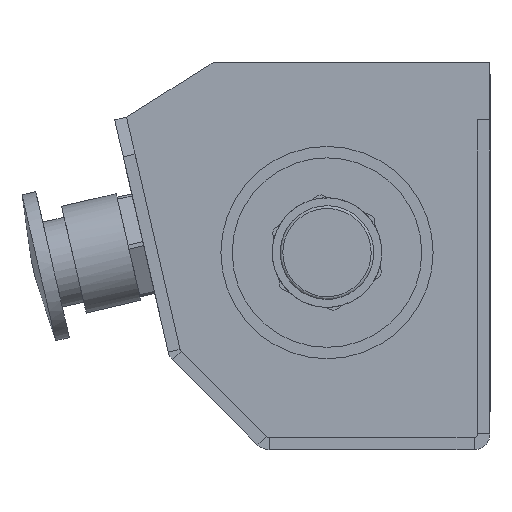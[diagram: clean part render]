
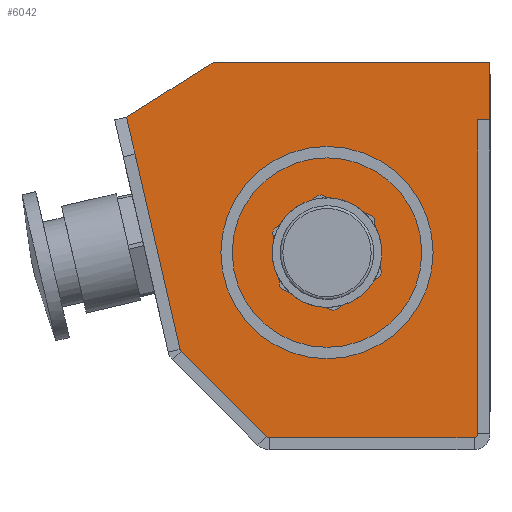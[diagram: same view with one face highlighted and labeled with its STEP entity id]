
A CAD part, left-side view. The second image highlights one B-rep face of the part: STEP entity #6042.
In plain terms, the highlighted planar face has unit normal (-1, 0, 0).
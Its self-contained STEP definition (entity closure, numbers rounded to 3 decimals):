
#22 = DIRECTION ( 'NONE',  ( 1., 0., 0. ) ) ;
#61 = DIRECTION ( 'NONE',  ( 0., 0., -1. ) ) ;
#158 = ORIENTED_EDGE ( 'NONE', *, *, #6128, .F. ) ;
#233 = CIRCLE ( 'NONE', #3430, 1. ) ;
#339 = EDGE_CURVE ( 'NONE', #468, #3167, #1136, .T. ) ;
#350 = VECTOR ( 'NONE', #1342, 1000. ) ;
#357 = CIRCLE ( 'NONE', #4742, 1. ) ;
#435 = EDGE_CURVE ( 'NONE', #4074, #4666, #5207, .T. ) ;
#468 = VERTEX_POINT ( 'NONE', #4599 ) ;
#524 = CARTESIAN_POINT ( 'NONE',  ( -166.2, 80.771, 26.71 ) ) ;
#561 = FACE_OUTER_BOUND ( 'NONE', #5033, .T. ) ;
#688 = ORIENTED_EDGE ( 'NONE', *, *, #3296, .F. ) ;
#892 = EDGE_CURVE ( 'NONE', #1795, #468, #3384, .T. ) ;
#931 = DIRECTION ( 'NONE',  ( 0., 1., 0. ) ) ;
#962 = CARTESIAN_POINT ( 'NONE',  ( -166.2, 3.2, 87. ) ) ;
#979 = CARTESIAN_POINT ( 'NONE',  ( -166.2, 58.26, 3.2 ) ) ;
#1011 = VECTOR ( 'NONE', #2979, 1000. ) ;
#1136 = CIRCLE ( 'NONE', #5942, 1. ) ;
#1150 = VERTEX_POINT ( 'NONE', #2530 ) ;
#1291 = EDGE_CURVE ( 'NONE', #3057, #4074, #5597, .T. ) ;
#1336 = CARTESIAN_POINT ( 'NONE',  ( -166.2, 81.745, 26.485 ) ) ;
#1342 = DIRECTION ( 'NONE',  ( 0., 0.225, 0.974 ) ) ;
#1544 = CARTESIAN_POINT ( 'NONE',  ( -166.2, 0., 102.2 ) ) ;
#1595 = ORIENTED_EDGE ( 'NONE', *, *, #435, .F. ) ;
#1615 = LINE ( 'NONE', #3967, #1011 ) ;
#1721 = ORIENTED_EDGE ( 'NONE', *, *, #1955, .F. ) ;
#1765 = EDGE_CURVE ( 'NONE', #6073, #5377, #3642, .T. ) ;
#1795 = VERTEX_POINT ( 'NONE', #4221 ) ;
#1840 = VECTOR ( 'NONE', #2711, 1000. ) ;
#1857 = VECTOR ( 'NONE', #5818, 1000. ) ;
#1897 = DIRECTION ( 'NONE',  ( 1., 0., 0. ) ) ;
#1913 = VECTOR ( 'NONE', #3638, 1000. ) ;
#1955 = EDGE_CURVE ( 'NONE', #4324, #2926, #233, .T. ) ;
#1977 = LINE ( 'NONE', #3796, #5830 ) ;
#2007 = EDGE_CURVE ( 'NONE', #4666, #4324, #5101, .T. ) ;
#2013 = CARTESIAN_POINT ( 'NONE',  ( -166.2, 4.2, 3.2 ) ) ;
#2215 = DIRECTION ( 'NONE',  ( 1., 0., 0. ) ) ;
#2220 = EDGE_CURVE ( 'NONE', #6073, #3057, #1615, .T. ) ;
#2461 = PLANE ( 'NONE',  #5470 ) ;
#2530 = CARTESIAN_POINT ( 'NONE',  ( -166.2, 58.26, 3.2 ) ) ;
#2711 = DIRECTION ( 'NONE',  ( 0., 0., -1. ) ) ;
#2765 = CARTESIAN_POINT ( 'NONE',  ( -166.2, 58.26, 4.2 ) ) ;
#2801 = CARTESIAN_POINT ( 'NONE',  ( -166.2, 3.2, 87. ) ) ;
#2826 = ORIENTED_EDGE ( 'NONE', *, *, #2220, .F. ) ;
#2926 = VERTEX_POINT ( 'NONE', #2013 ) ;
#2979 = DIRECTION ( 'NONE',  ( 0., -1., 0. ) ) ;
#3057 = VERTEX_POINT ( 'NONE', #1544 ) ;
#3163 = ORIENTED_EDGE ( 'NONE', *, *, #1291, .F. ) ;
#3167 = VERTEX_POINT ( 'NONE', #1336 ) ;
#3221 = ORIENTED_EDGE ( 'NONE', *, *, #892, .F. ) ;
#3241 = CARTESIAN_POINT ( 'NONE',  ( -166.2, 0., 87. ) ) ;
#3296 = EDGE_CURVE ( 'NONE', #3907, #5377, #1977, .T. ) ;
#3306 = VECTOR ( 'NONE', #931, 1000. ) ;
#3384 = LINE ( 'NONE', #4933, #1857 ) ;
#3394 = DIRECTION ( 'NONE',  ( -1., 0., 0. ) ) ;
#3430 = AXIS2_PLACEMENT_3D ( 'NONE', #4624, #2215, #4561 ) ;
#3540 = CARTESIAN_POINT ( 'NONE',  ( -166.2, 0., 87. ) ) ;
#3554 = CARTESIAN_POINT ( 'NONE',  ( -166.2, 3.2, 4.2 ) ) ;
#3592 = CARTESIAN_POINT ( 'NONE',  ( -166.2, 80.771, 26.71 ) ) ;
#3638 = DIRECTION ( 'NONE',  ( 0., 0., -1. ) ) ;
#3642 = CIRCLE ( 'NONE', #4532, 4.2 ) ;
#3651 = DIRECTION ( 'NONE',  ( 0., 0., -1. ) ) ;
#3796 = CARTESIAN_POINT ( 'NONE',  ( -166.2, 95.882, 87.72 ) ) ;
#3860 = DIRECTION ( 'NONE',  ( 0., -0.845, 0.535 ) ) ;
#3906 = ORIENTED_EDGE ( 'NONE', *, *, #4834, .F. ) ;
#3907 = VERTEX_POINT ( 'NONE', #5544 ) ;
#3967 = CARTESIAN_POINT ( 'NONE',  ( -166.2, 0., 102.2 ) ) ;
#4008 = CARTESIAN_POINT ( 'NONE',  ( -166.2, 74.029, 101.549 ) ) ;
#4060 = LINE ( 'NONE', #5123, #350 ) ;
#4074 = VERTEX_POINT ( 'NONE', #3241 ) ;
#4164 = ORIENTED_EDGE ( 'NONE', *, *, #1765, .T. ) ;
#4221 = CARTESIAN_POINT ( 'NONE',  ( -166.2, 58.967, 3.493 ) ) ;
#4324 = VERTEX_POINT ( 'NONE', #3554 ) ;
#4532 = AXIS2_PLACEMENT_3D ( 'NONE', #4773, #3394, #4802 ) ;
#4533 = DIRECTION ( 'NONE',  ( 0., 1., 0. ) ) ;
#4557 = VECTOR ( 'NONE', #4533, 1000. ) ;
#4560 = ORIENTED_EDGE ( 'NONE', *, *, #2007, .F. ) ;
#4561 = DIRECTION ( 'NONE',  ( 0., 0., -1. ) ) ;
#4599 = CARTESIAN_POINT ( 'NONE',  ( -166.2, 81.478, 26.003 ) ) ;
#4624 = CARTESIAN_POINT ( 'NONE',  ( -166.2, 4.2, 4.2 ) ) ;
#4666 = VERTEX_POINT ( 'NONE', #2801 ) ;
#4671 = DIRECTION ( 'NONE',  ( 0., 0., -1. ) ) ;
#4742 = AXIS2_PLACEMENT_3D ( 'NONE', #2765, #1897, #4671 ) ;
#4773 = CARTESIAN_POINT ( 'NONE',  ( -166.2, 71.783, 98. ) ) ;
#4802 = DIRECTION ( 'NONE',  ( 0., 0., -1. ) ) ;
#4834 = EDGE_CURVE ( 'NONE', #3167, #3907, #4060, .T. ) ;
#4879 = CARTESIAN_POINT ( 'NONE',  ( -166.2, 71.783, 102.2 ) ) ;
#4933 = CARTESIAN_POINT ( 'NONE',  ( -166.2, 81.478, 26.003 ) ) ;
#5033 = EDGE_LOOP ( 'NONE', ( #2826, #4164, #688, #3906, #5794, #3221, #6009, #158, #1721, #4560, #1595, #3163 ) ) ;
#5101 = LINE ( 'NONE', #5512, #1840 ) ;
#5123 = CARTESIAN_POINT ( 'NONE',  ( -166.2, 95.882, 87.72 ) ) ;
#5207 = LINE ( 'NONE', #962, #3306 ) ;
#5279 = EDGE_CURVE ( 'NONE', #1150, #1795, #357, .T. ) ;
#5377 = VERTEX_POINT ( 'NONE', #4008 ) ;
#5470 = AXIS2_PLACEMENT_3D ( 'NONE', #524, #22, #61 ) ;
#5477 = DIRECTION ( 'NONE',  ( 1., 0., 0. ) ) ;
#5512 = CARTESIAN_POINT ( 'NONE',  ( -166.2, 3.2, 4.2 ) ) ;
#5544 = CARTESIAN_POINT ( 'NONE',  ( -166.2, 95.882, 87.72 ) ) ;
#5597 = LINE ( 'NONE', #3540, #1913 ) ;
#5737 = LINE ( 'NONE', #979, #4557 ) ;
#5794 = ORIENTED_EDGE ( 'NONE', *, *, #339, .F. ) ;
#5818 = DIRECTION ( 'NONE',  ( 0., 0.707, 0.707 ) ) ;
#5830 = VECTOR ( 'NONE', #3860, 1000. ) ;
#5942 = AXIS2_PLACEMENT_3D ( 'NONE', #3592, #5477, #3651 ) ;
#6009 = ORIENTED_EDGE ( 'NONE', *, *, #5279, .F. ) ;
#6042 = ADVANCED_FACE ( 'NONE', ( #561 ), #2461, .F. ) ;
#6073 = VERTEX_POINT ( 'NONE', #4879 ) ;
#6128 = EDGE_CURVE ( 'NONE', #2926, #1150, #5737, .T. ) ;
